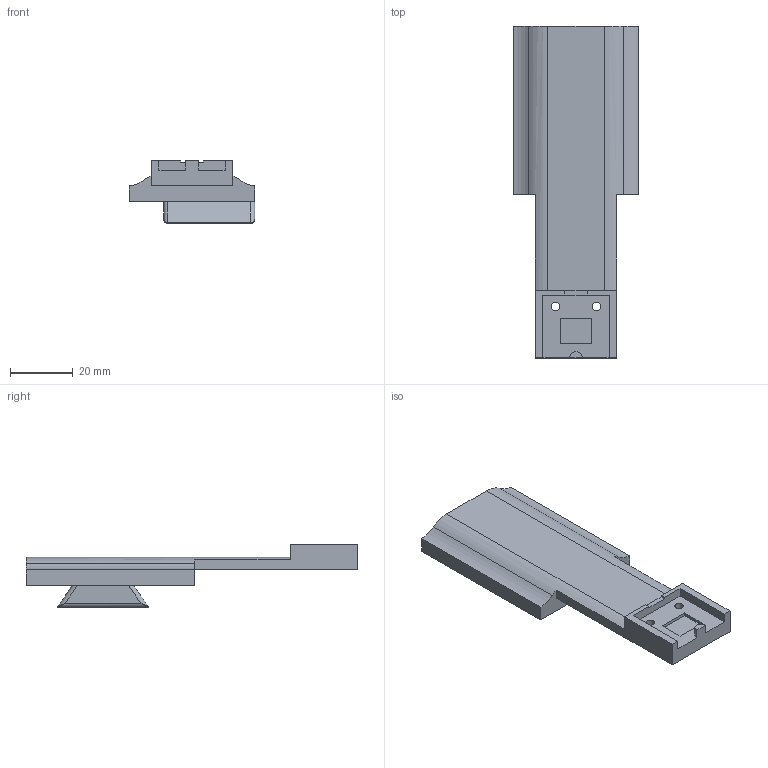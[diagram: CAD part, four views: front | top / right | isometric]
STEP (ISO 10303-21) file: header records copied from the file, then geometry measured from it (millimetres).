
FILE_DESCRIPTION(/* description */ (''),/* implementation_level */ '2;1');
FILE_NAME(/* name */ 'C:\Users\Banwz\Desktop\ВИМ\Агронабор\Агронабор Релиз\Насадки\Вилка\Вилка.stp',/* time_stamp */ '2023-05-04T00:17:39+03:00',/* author */ ('Banwz'),/* organization */ (''),/* preprocessor_version */ 'ST-DEVELOPER v18.1',/* originating_system */ 'Autodesk Inventor 2021',/* authorisation */ '');
FILE_SCHEMA (('AUTOMOTIVE_DESIGN { 1 0 10303 214 3 1 1 }'));
Length unit declared in the file: millimetre
Products named in the file (1): Вилка
Bounding box: 40 x 105.5 x 19.91 mm (x, y, z)
Volume: 28109.2 mm3; surface area: 10288.2 mm2
Topology: 1 solids, 1 shells, 50 faces, 131 edges, 80 vertices
Faces by surface type: plane 31, cylinder 15, bspline 4
Full cylindrical faces by diameter (mm): 2.7 x2
Entity records: 1650 total; most frequent: CARTESIAN_POINT 380, ORIENTED_EDGE 254, DIRECTION 253, EDGE_CURVE 127, LINE 95, VECTOR 95, VERTEX_POINT 80, AXIS2_PLACEMENT_3D 79
